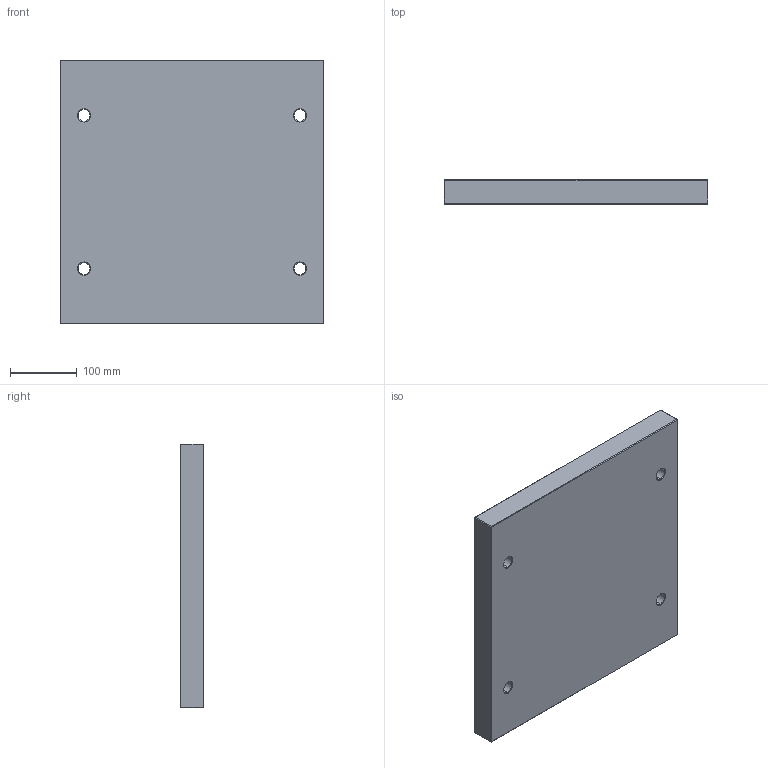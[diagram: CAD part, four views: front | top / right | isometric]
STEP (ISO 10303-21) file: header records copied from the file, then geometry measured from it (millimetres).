
FILE_DESCRIPTION (( 'STEP AP214' ), '1' );
FILE_NAME ('PS-396X396X36.STEP', '2020-05-12T15:39:44', ( 'August' ), ( '' ), 'SwSTEP 2.0', 'SolidWorks 2018', '' );
FILE_SCHEMA (( 'AUTOMOTIVE_DESIGN' ));
Length unit declared in the file: millimetre
Products named in the file (1): PS-396X396X36
Bounding box: 396 x 36 x 396 mm (x, y, z)
Volume: 5586891.8 mm3; surface area: 376316.2 mm2
Topology: 1 solids, 1 shells, 62 faces, 128 edges, 72 vertices
Faces by surface type: plane 30, cone 16, cylinder 16
Entity records: 1650 total; most frequent: DIRECTION 302, CARTESIAN_POINT 263, ORIENTED_EDGE 256, EDGE_CURVE 128, AXIS2_PLACEMENT_3D 111, VECTOR 80, LINE 80, EDGE_LOOP 74
